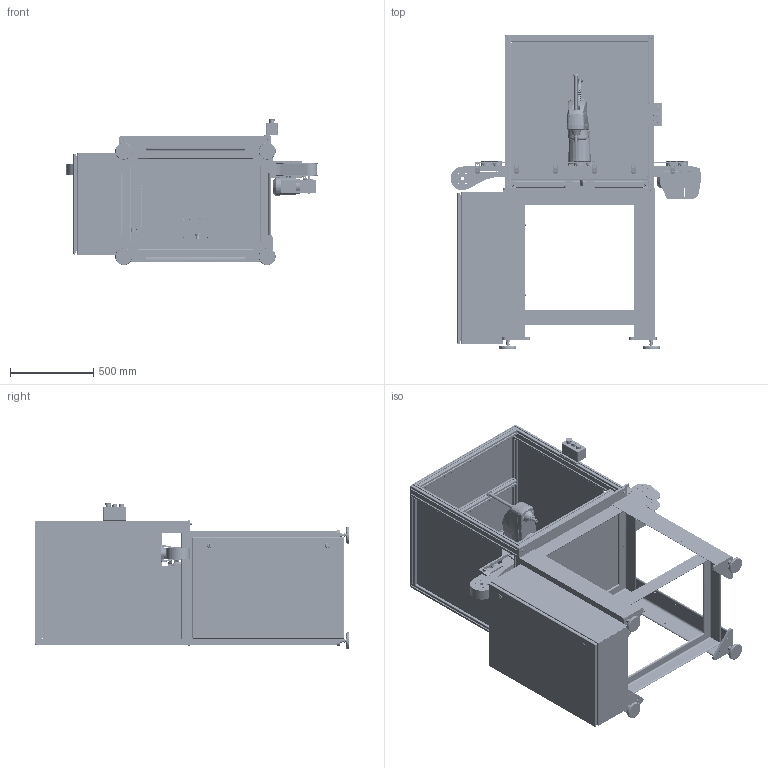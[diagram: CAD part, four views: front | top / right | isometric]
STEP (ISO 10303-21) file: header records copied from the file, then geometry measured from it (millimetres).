
FILE_DESCRIPTION (( 'STEP AP203' ), '1' );
FILE_NAME ('SCARA ASSEMBLY CELL_CONVEYOR_BLANK.STEP', '2022-11-07T20:22:47', ( '' ), ( '' ), 'SwSTEP 2.0', 'SolidWorks 2021', '' );
FILE_SCHEMA (( 'CONFIG_CONTROL_DESIGN' ));
Products named in the file (1): SCARA ASSEMBLY CELL_CONVEYOR_BLANK
Bounding box: 1510.14 x 1893.54 x 879.47 mm (x, y, z)
Surface area: 22710981.4 mm2 (no closed solid volume)
Topology: 0 solids, 303 shells, 18506 faces, 48033 edges, 30896 vertices
Faces by surface type: plane 11089, cylinder 4847, cone 1145, bspline 956, torus 413, sphere 56
Full cylindrical faces by diameter (mm): 0.95 x1, 1.05 x1, 1.1 x1, 1.3 x1, 1.98 x2, 2 x20, 2.2 x3, 2.362 x6, 2.459 x4, 2.5 x8, 2.6 x42, 3 x58, 3.05 x4, 3.14 x4, 3.175 x3, 3.2 x1, 3.242 x17, 3.3 x4, 3.317 x102, 3.5 x1, 3.7 x43, 3.861 x6, 3.962 x3, 4 x216, 4.166 x102, 4.25 x6, 4.366 x6, 4.496 x2, 4.5 x10, 4.572 x6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
Entity records: 624578 total; most frequent: CARTESIAN_POINT 193931, ORIENTED_EDGE 89792, DIRECTION 83882, EDGE_CURVE 44897, VERTEX_POINT 29972, VECTOR 28730, LINE 28730, AXIS2_PLACEMENT_3D 27576
